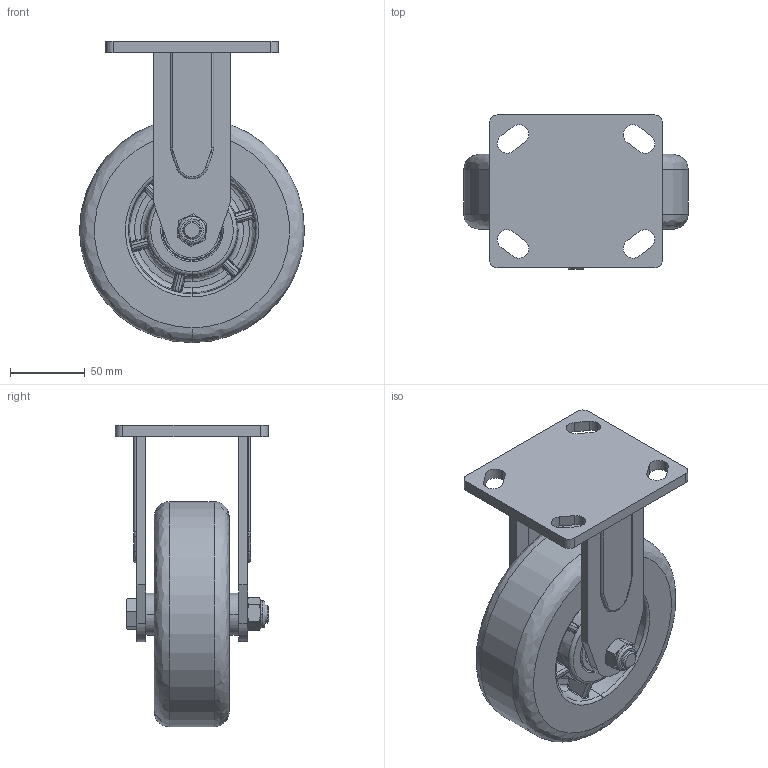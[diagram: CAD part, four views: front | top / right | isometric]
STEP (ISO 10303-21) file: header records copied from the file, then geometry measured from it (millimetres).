
FILE_DESCRIPTION (( 'STEP AP203' ), '1' );
FILE_NAME ('36A6寸定向（小底板）.STEP', '2026-03-13T01:23:17', ( 'MUSE' ), ( 'MUSE' ), 'SwSTEP 2.0', 'SolidWorks 2024', '' );
FILE_SCHEMA (( 'CONFIG_CONTROL_DESIGN' ));
Products named in the file (1): 36A6寸定向（小底板）
Bounding box: 150 x 102.5 x 201 mm (x, y, z)
Volume: 916706.2 mm3; surface area: 149213.2 mm2
Topology: 1 solids, 3 shells, 980 faces, 2516 edges, 1542 vertices
Faces by surface type: plane 394, cylinder 272, bspline 241, cone 73
Entity records: 48576 total; most frequent: CARTESIAN_POINT 25761, ORIENTED_EDGE 5032, DIRECTION 4577, EDGE_CURVE 2516, AXIS2_PLACEMENT_3D 1789, VERTEX_POINT 1542, CIRCLE 1049, EDGE_LOOP 1034
